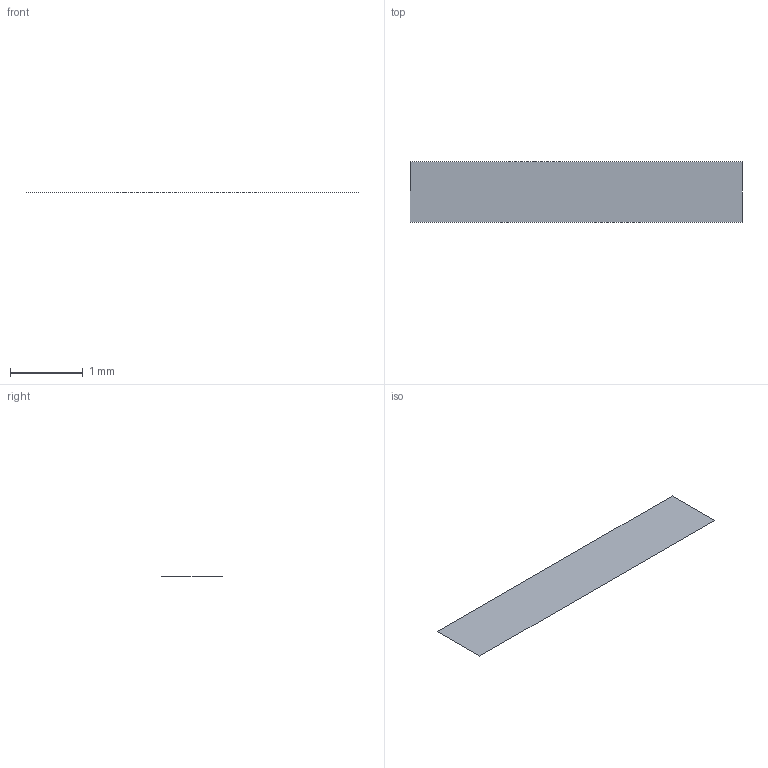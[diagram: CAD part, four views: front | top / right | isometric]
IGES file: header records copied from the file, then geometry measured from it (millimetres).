
Start section: 3D InterOp IGES (v. 2019 1.0.0), Spatial Corp. Copyright (c) 1999-2017.
Global section: file name: 3.igs; native system: Spatial Corp.; preprocessor: 3D InterOp ACIS/IGES; author: Noname; organization: Noname; date: 20220419.153741; units: millimetre
Bounding box: 4.57 x 0.83 x 0 mm (x, y, z)
Surface area: 3.8 mm2 (no closed solid volume)
Topology: 0 solids, 0 shells, 1 faces, 4 edges, 4 vertices
Faces by surface type: extrusion 1
